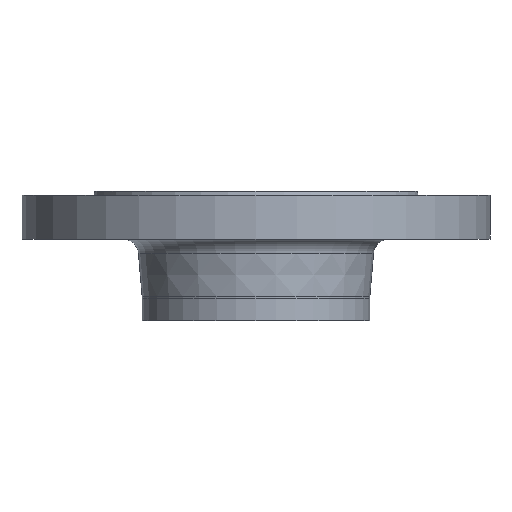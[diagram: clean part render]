
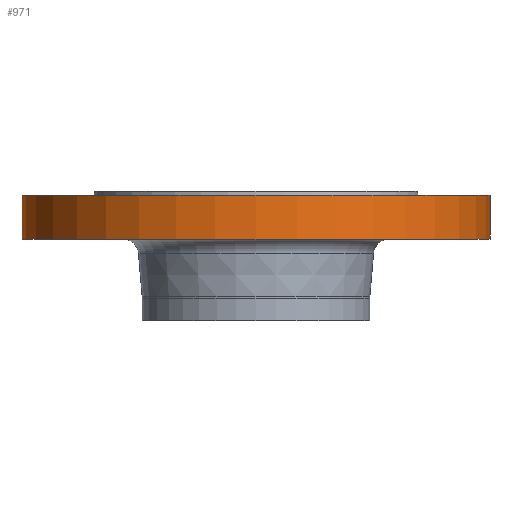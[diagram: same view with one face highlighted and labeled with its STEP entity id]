
A CAD part, front view. The second image highlights one B-rep face of the part: STEP entity #971.
In plain terms, the highlighted cylindrical face has radius 117.5 mm (diameter 235 mm), a partial arc.
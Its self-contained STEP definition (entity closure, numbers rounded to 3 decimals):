
#6 = CARTESIAN_POINT ( 'NONE',  ( 117.5, 0., -75. ) ) ;
#7 = LINE ( 'NONE', #6, #1219 ) ;
#61 = VECTOR ( 'NONE', #590, 1000. ) ;
#84 = DIRECTION ( 'NONE',  ( 1., 0., 0. ) ) ;
#85 = DIRECTION ( 'NONE',  ( 0., 0., 1. ) ) ;
#86 = CARTESIAN_POINT ( 'NONE',  ( 0., 0., -75. ) ) ;
#87 = CYLINDRICAL_SURFACE ( 'NONE', #761, 117.5 ) ;
#88 = FACE_OUTER_BOUND ( 'NONE', #1081, .T. ) ;
#198 = EDGE_CURVE ( 'NONE', #1193, #681, #717, .T. ) ;
#251 = DIRECTION ( 'NONE',  ( -1., 0., 0. ) ) ;
#252 = DIRECTION ( 'NONE',  ( 0., 0., -1. ) ) ;
#255 = CARTESIAN_POINT ( 'NONE',  ( 0., 0., -24. ) ) ;
#317 = CARTESIAN_POINT ( 'NONE',  ( 117.5, 0., -2. ) ) ;
#346 = DIRECTION ( 'NONE',  ( -1., 0., 0. ) ) ;
#347 = DIRECTION ( 'NONE',  ( 0., 0., -1. ) ) ;
#349 = CARTESIAN_POINT ( 'NONE',  ( 0., 0., -2. ) ) ;
#467 = CARTESIAN_POINT ( 'NONE',  ( -117.5, 0., -2. ) ) ;
#494 = CIRCLE ( 'NONE', #497, 117.5 ) ;
#497 = AXIS2_PLACEMENT_3D ( 'NONE', #349, #347, #346 ) ;
#590 = DIRECTION ( 'NONE',  ( 0., 0., 1. ) ) ;
#640 = CIRCLE ( 'NONE', #643, 117.5 ) ;
#643 = AXIS2_PLACEMENT_3D ( 'NONE', #255, #252, #251 ) ;
#681 = VERTEX_POINT ( 'NONE', #467 ) ;
#717 = LINE ( 'NONE', #957, #61 ) ;
#761 = AXIS2_PLACEMENT_3D ( 'NONE', #86, #85, #84 ) ;
#810 = EDGE_CURVE ( 'NONE', #1087, #681, #494, .T. ) ;
#816 = DIRECTION ( 'NONE',  ( 0., 0., 1. ) ) ;
#903 = EDGE_CURVE ( 'NONE', #1078, #1193, #640, .T. ) ;
#957 = CARTESIAN_POINT ( 'NONE',  ( -117.5, 0., -75. ) ) ;
#971 = ADVANCED_FACE ( 'NONE', ( #88 ), #87, .T. ) ;
#986 = CARTESIAN_POINT ( 'NONE',  ( 117.5, 0., -24. ) ) ;
#1013 = EDGE_CURVE ( 'NONE', #1078, #1087, #7, .T. ) ;
#1068 = CARTESIAN_POINT ( 'NONE',  ( -117.5, 0., -24. ) ) ;
#1078 = VERTEX_POINT ( 'NONE', #986 ) ;
#1081 = EDGE_LOOP ( 'NONE', ( #1171, #1172, #1173, #1176 ) ) ;
#1087 = VERTEX_POINT ( 'NONE', #317 ) ;
#1171 = ORIENTED_EDGE ( 'NONE', *, *, #198, .F. ) ;
#1172 = ORIENTED_EDGE ( 'NONE', *, *, #903, .F. ) ;
#1173 = ORIENTED_EDGE ( 'NONE', *, *, #1013, .T. ) ;
#1176 = ORIENTED_EDGE ( 'NONE', *, *, #810, .T. ) ;
#1193 = VERTEX_POINT ( 'NONE', #1068 ) ;
#1219 = VECTOR ( 'NONE', #816, 1000. ) ;
